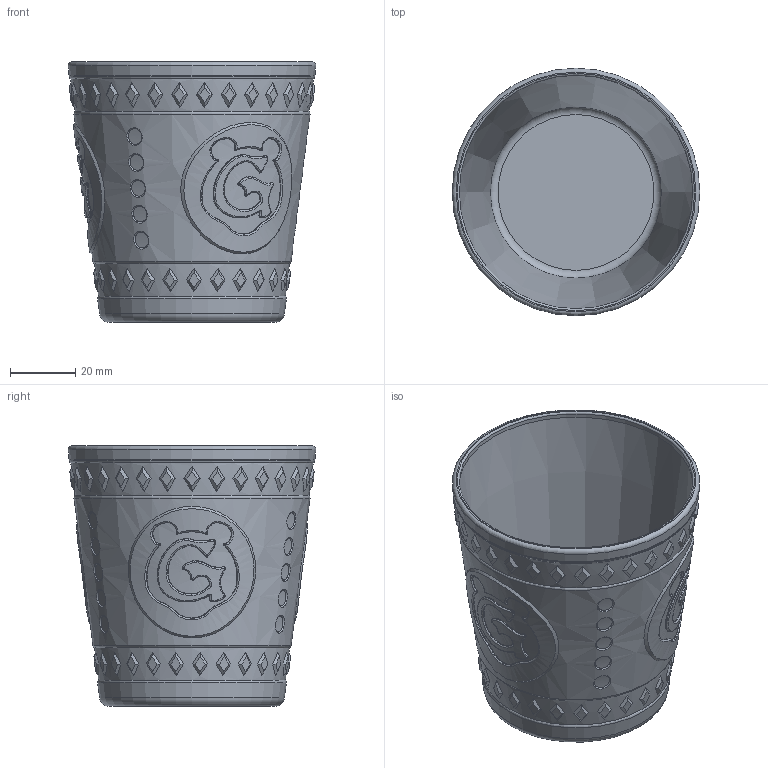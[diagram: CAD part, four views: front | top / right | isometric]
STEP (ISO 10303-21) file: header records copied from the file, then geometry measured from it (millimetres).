
FILE_DESCRIPTION(/* description */ ('STEP AP242','CAx-IF Rec.Pracs.---Representation and Presentation of Product Manufacturing Information (PMI)---4.0---2014-10-13','CAx-IF Rec.Pracs.---3D Tessellated Geometry---0.4---2014-09-14','2;1'),/* implementation_level */ '2;1');
FILE_NAME(/* name */ '6532baa153e9290283dd66a3',/* time_stamp */ '2023-10-20T17:36:35Z',/* author */ (''),/* organization */ (''),/* preprocessor_version */ 'ST-DEVELOPER v19.4',/* originating_system */ ' ',/* authorisation */ ' ');
FILE_SCHEMA (('AP242_MANAGED_MODEL_BASED_3D_ENGINEERING_MIM_LF { 1 0 10303 442 1 1 4 }'));
Length unit declared in the file: metre
Products named in the file (1): Gummy Bears Cup
Bounding box: 75.94 x 75.94 x 80 mm (x, y, z)
Volume: 40240.2 mm3; surface area: 37631.4 mm2
Topology: 1 solids, 1 shells, 510 faces, 1253 edges, 792 vertices
Faces by surface type: bspline 399, cone 86, plane 12, torus 9, cylinder 4
Full cylindrical faces by diameter (mm): 71.6 x1
Entity records: 45797 total; most frequent: CARTESIAN_POINT 37755, ORIENTED_EDGE 2288, EDGE_CURVE 1144, B_SPLINE_CURVE_WITH_KNOTS 1105, VERTEX_POINT 758, EDGE_LOOP 632, FACE_BOUND 632, ADVANCED_FACE 510
